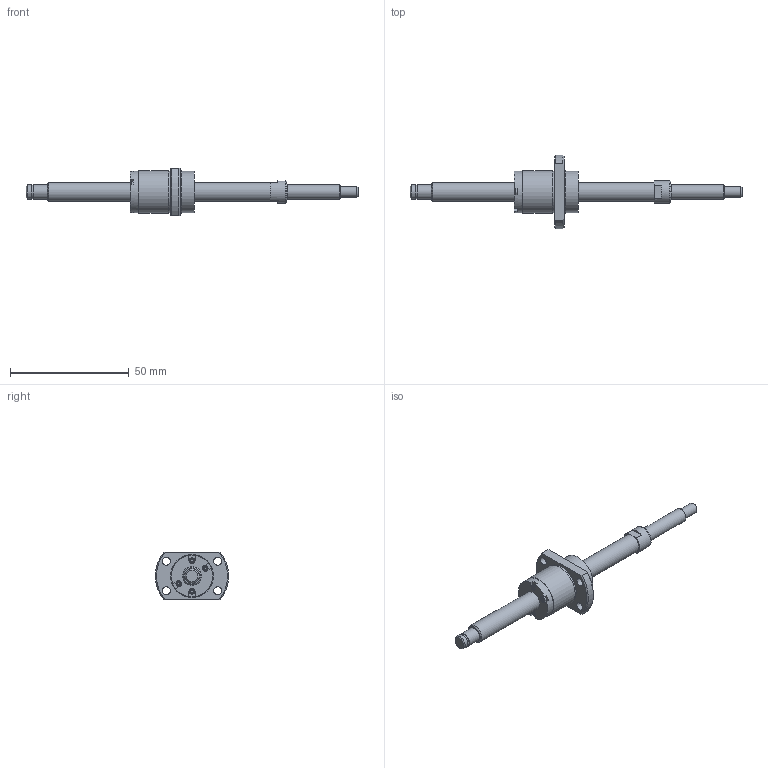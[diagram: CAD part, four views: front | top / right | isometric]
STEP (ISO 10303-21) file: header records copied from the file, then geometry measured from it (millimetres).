
FILE_DESCRIPTION(/* description */ ('STEP AP214'),/* implementation_level */ '2;1');
FILE_NAME(/* name */ 'SG0812-088R140C5B0X(35)',/* time_stamp */ '2026-07-23T22:52:27+02:00',/* author */ ('License CC BY-ND 4.0'),/* organization */ ('CADENAS'),/* preprocessor_version */ 'ST-DEVELOPER v20',/* originating_system */ 'PARTsolutions',/* authorisation */ ' ');
FILE_SCHEMA (('AUTOMOTIVE_DESIGN {1 0 10303 214 3 1 1}'));
Length unit declared in the file: millimetre
Products named in the file (3): SG0812-088R140C5B0X(35); SG0812-88R140C5B_shaft; SG0812 C5_nut
Assembly tree (2 placements, depth 2):
  SG0812-088R140C5B0X(35)
    SG0812-88R140C5B_shaft
    SG0812 C5_nut
Bounding box: 140 x 30.91 x 20 mm (x, y, z)
Volume: 12678.3 mm3; surface area: 6926.8 mm2
Topology: 2 solids, 2 shells, 107 faces, 242 edges, 157 vertices
Faces by surface type: plane 66, cylinder 27, cone 13, torus 1
Full cylindrical faces by diameter (mm): 2.25 x4, 3.4 x4, 4.5 x1, 5.7 x1, 6 x3, 8 x2, 9.5 x1, 17.5 x3, 18 x2
Entity records: 2921 total; most frequent: DIRECTION 500, CARTESIAN_POINT 498, ORIENTED_EDGE 418, EDGE_CURVE 209, AXIS2_PLACEMENT_3D 189, EDGE_LOOP 166, FACE_BOUND 166, VERTEX_POINT 155
